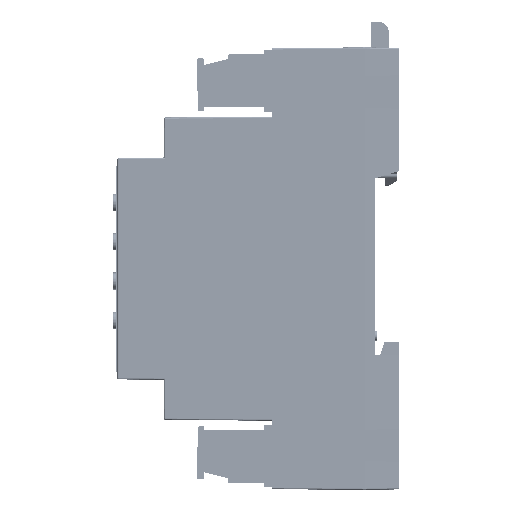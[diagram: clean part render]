
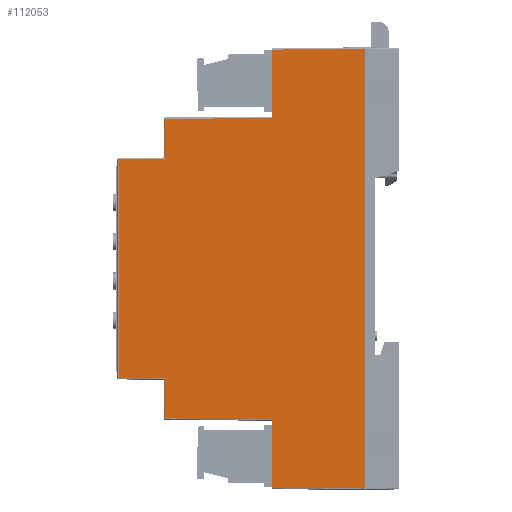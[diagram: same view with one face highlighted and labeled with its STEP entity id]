
A CAD part, left-side view. The second image highlights one B-rep face of the part: STEP entity #112053.
In plain terms, the highlighted planar face has unit normal (-1, 0.009, 0) as drawn and (0, 1, -0.009) by its records, which use the part's own axes.
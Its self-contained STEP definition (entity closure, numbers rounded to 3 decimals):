
#2780 = VERTEX_POINT ( 'NONE', #120462 ) ;
#7597 = LINE ( 'NONE', #83931, #209412 ) ;
#9528 = DIRECTION ( 'NONE',  ( 0.009, 0.009, 1. ) ) ;
#16227 = CARTESIAN_POINT ( 'NONE',  ( -34302.297, -26211.611, 40.463 ) ) ;
#16402 = EDGE_LOOP ( 'NONE', ( #73931, #241903, #84846, #59870, #59095, #91531, #212736, #211911, #137973, #179905, #191687, #34662, #122305, #90588, #145506, #198748 ) ) ;
#22446 = LINE ( 'NONE', #175070, #74074 ) ;
#25575 = VECTOR ( 'NONE', #86435, 1000. ) ;
#26449 = VERTEX_POINT ( 'NONE', #246712 ) ;
#27476 = CARTESIAN_POINT ( 'NONE',  ( -34316.397, -26211.446, 59.463 ) ) ;
#28698 = DIRECTION ( 'NONE',  ( 0.009, -0.009, -1. ) ) ;
#29731 = VERTEX_POINT ( 'NONE', #51866 ) ;
#34662 = ORIENTED_EDGE ( 'NONE', *, *, #36326, .F. ) ;
#34731 = CARTESIAN_POINT ( 'NONE',  ( -34310.447, -26211.446, 59.463 ) ) ;
#34877 = VECTOR ( 'NONE', #152748, 1000. ) ;
#36326 = EDGE_CURVE ( 'NONE', #46431, #159423, #60608, .T. ) ;
#36467 = CARTESIAN_POINT ( 'NONE',  ( -34226.797, -26211.446, 59.463 ) ) ;
#36671 = DIRECTION ( 'NONE',  ( 1., 0., 0. ) ) ;
#41955 = LINE ( 'NONE', #101943, #121103 ) ;
#42412 = LINE ( 'NONE', #119887, #243596 ) ;
#42459 = DIRECTION ( 'NONE',  ( -1., 0., 0. ) ) ;
#46318 = LINE ( 'NONE', #27476, #173265 ) ;
#46431 = VERTEX_POINT ( 'NONE', #184968 ) ;
#48791 = CARTESIAN_POINT ( 'NONE',  ( -34376.497, -26211.884, 9.26 ) ) ;
#51866 = CARTESIAN_POINT ( 'NONE',  ( -34249.244, -26211.801, 18.76 ) ) ;
#52521 = CARTESIAN_POINT ( 'NONE',  ( -34376.497, -26211.446, 59.463 ) ) ;
#55650 = VERTEX_POINT ( 'NONE', #222380 ) ;
#58973 = EDGE_CURVE ( 'NONE', #157665, #115098, #207816, .T. ) ;
#59095 = ORIENTED_EDGE ( 'NONE', *, *, #230493, .F. ) ;
#59870 = ORIENTED_EDGE ( 'NONE', *, *, #140385, .F. ) ;
#60143 = CARTESIAN_POINT ( 'NONE',  ( -34316.697, -26211.446, 59.463 ) ) ;
#60608 = LINE ( 'NONE', #80618, #84978 ) ;
#60645 = VERTEX_POINT ( 'NONE', #170680 ) ;
#64821 = CARTESIAN_POINT ( 'NONE',  ( -34241.086, -26211.801, 18.76 ) ) ;
#71773 = VECTOR ( 'NONE', #9528, 1000. ) ;
#73931 = ORIENTED_EDGE ( 'NONE', *, *, #170549, .F. ) ;
#74074 = VECTOR ( 'NONE', #42459, 1000. ) ;
#76296 = DIRECTION ( 'NONE',  ( -1., 0., 0. ) ) ;
#78569 = EDGE_CURVE ( 'NONE', #159423, #2780, #213814, .T. ) ;
#80618 = CARTESIAN_POINT ( 'NONE',  ( -34376.497, -26211.446, 59.463 ) ) ;
#81180 = DIRECTION ( 'NONE',  ( 1., 0., 0. ) ) ;
#82299 = EDGE_CURVE ( 'NONE', #178921, #85423, #208091, .T. ) ;
#83931 = CARTESIAN_POINT ( 'NONE',  ( -34376.497, -26211.801, 18.76 ) ) ;
#84846 = ORIENTED_EDGE ( 'NONE', *, *, #85503, .F. ) ;
#84978 = VECTOR ( 'NONE', #136878, 1000. ) ;
#85423 = VERTEX_POINT ( 'NONE', #16227 ) ;
#85503 = EDGE_CURVE ( 'NONE', #29731, #158123, #42412, .T. ) ;
#86435 = DIRECTION ( 'NONE',  ( 0.009, -0.009, -1. ) ) ;
#87569 = LINE ( 'NONE', #48791, #225251 ) ;
#90588 = ORIENTED_EDGE ( 'NONE', *, *, #209540, .F. ) ;
#91531 = ORIENTED_EDGE ( 'NONE', *, *, #142525, .F. ) ;
#93987 = CARTESIAN_POINT ( 'NONE',  ( -34249.327, -26211.884, 9.26 ) ) ;
#97872 = CARTESIAN_POINT ( 'NONE',  ( -34226.963, -26211.611, 40.463 ) ) ;
#100892 = LINE ( 'NONE', #178473, #71773 ) ;
#101442 = CARTESIAN_POINT ( 'NONE',  ( -34376.497, -26211.611, 40.463 ) ) ;
#101943 = CARTESIAN_POINT ( 'NONE',  ( -34302.297, -26211.611, 40.463 ) ) ;
#103805 = DIRECTION ( 'NONE',  ( 1., 0., 0. ) ) ;
#104042 = CARTESIAN_POINT ( 'NONE',  ( -34316.231, -26211.611, 40.463 ) ) ;
#106454 = VERTEX_POINT ( 'NONE', #97872 ) ;
#112053 = ADVANCED_FACE ( 'NONE', ( #223868 ), #201441, .F. ) ;
#114645 = LINE ( 'NONE', #208473, #197389 ) ;
#115098 = VERTEX_POINT ( 'NONE', #189994 ) ;
#119887 = CARTESIAN_POINT ( 'NONE',  ( -34376.497, -26211.801, 18.76 ) ) ;
#120462 = CARTESIAN_POINT ( 'NONE',  ( -34316.397, -26211.446, 59.463 ) ) ;
#121103 = VECTOR ( 'NONE', #230880, 1000. ) ;
#122305 = ORIENTED_EDGE ( 'NONE', *, *, #190568, .F. ) ;
#134775 = EDGE_CURVE ( 'NONE', #198320, #60645, #7597, .T. ) ;
#136878 = DIRECTION ( 'NONE',  ( -1., 0., 0. ) ) ;
#137973 = ORIENTED_EDGE ( 'NONE', *, *, #82299, .F. ) ;
#140200 = DIRECTION ( 'NONE',  ( 1., 0., 0. ) ) ;
#140385 = EDGE_CURVE ( 'NONE', #161599, #29731, #197723, .T. ) ;
#141870 = VECTOR ( 'NONE', #177793, 1000. ) ;
#142525 = EDGE_CURVE ( 'NONE', #60645, #55650, #143933, .T. ) ;
#143349 = CARTESIAN_POINT ( 'NONE',  ( -34302.108, -26211.801, 18.76 ) ) ;
#143933 = LINE ( 'NONE', #217772, #25575 ) ;
#145506 = ORIENTED_EDGE ( 'NONE', *, *, #58973, .F. ) ;
#146384 = DIRECTION ( 'NONE',  ( 0., -1., 0.009 ) ) ;
#152748 = DIRECTION ( 'NONE',  ( -1., 0., 0. ) ) ;
#157665 = VERTEX_POINT ( 'NONE', #36467 ) ;
#158123 = VERTEX_POINT ( 'NONE', #64821 ) ;
#159423 = VERTEX_POINT ( 'NONE', #34731 ) ;
#161331 = DIRECTION ( 'NONE',  ( 0.009, 0.009, 1. ) ) ;
#161599 = VERTEX_POINT ( 'NONE', #93987 ) ;
#165280 = VECTOR ( 'NONE', #76296, 1000. ) ;
#170549 = EDGE_CURVE ( 'NONE', #26449, #106454, #194146, .T. ) ;
#170680 = CARTESIAN_POINT ( 'NONE',  ( -34293.95, -26211.801, 18.76 ) ) ;
#173265 = VECTOR ( 'NONE', #28698, 1000. ) ;
#175070 = CARTESIAN_POINT ( 'NONE',  ( -34376.497, -26211.446, 59.463 ) ) ;
#177793 = DIRECTION ( 'NONE',  ( 1., 0., 0. ) ) ;
#178473 = CARTESIAN_POINT ( 'NONE',  ( -34226.963, -26211.611, 40.463 ) ) ;
#178921 = VERTEX_POINT ( 'NONE', #104042 ) ;
#179530 = CARTESIAN_POINT ( 'NONE',  ( -34316.697, -26211.446, 59.463 ) ) ;
#179905 = ORIENTED_EDGE ( 'NONE', *, *, #230460, .F. ) ;
#180551 = DIRECTION ( 'NONE',  ( 0.009, 0.009, 1. ) ) ;
#184968 = CARTESIAN_POINT ( 'NONE',  ( -34304.747, -26211.446, 59.463 ) ) ;
#189994 = CARTESIAN_POINT ( 'NONE',  ( -34232.747, -26211.446, 59.463 ) ) ;
#190568 = EDGE_CURVE ( 'NONE', #237619, #46431, #22446, .T. ) ;
#191420 = CARTESIAN_POINT ( 'NONE',  ( -34238.447, -26211.446, 59.463 ) ) ;
#191505 = VECTOR ( 'NONE', #180551, 1000. ) ;
#191687 = ORIENTED_EDGE ( 'NONE', *, *, #78569, .F. ) ;
#191792 = CARTESIAN_POINT ( 'NONE',  ( -34376.497, -26211.611, 40.463 ) ) ;
#194146 = LINE ( 'NONE', #101442, #141870 ) ;
#197389 = VECTOR ( 'NONE', #244796, 1000. ) ;
#197723 = LINE ( 'NONE', #236437, #215063 ) ;
#198320 = VERTEX_POINT ( 'NONE', #143349 ) ;
#198748 = ORIENTED_EDGE ( 'NONE', *, *, #217500, .F. ) ;
#199361 = LINE ( 'NONE', #218114, #191505 ) ;
#201441 = PLANE ( 'NONE',  #244763 ) ;
#205115 = DIRECTION ( 'NONE',  ( -1., 0., 0. ) ) ;
#207511 = EDGE_CURVE ( 'NONE', #85423, #198320, #41955, .T. ) ;
#207816 = LINE ( 'NONE', #60143, #34877 ) ;
#208091 = LINE ( 'NONE', #191792, #230642 ) ;
#208473 = CARTESIAN_POINT ( 'NONE',  ( -34376.497, -26211.446, 59.463 ) ) ;
#209412 = VECTOR ( 'NONE', #140200, 1000. ) ;
#209540 = EDGE_CURVE ( 'NONE', #115098, #237619, #114645, .T. ) ;
#211911 = ORIENTED_EDGE ( 'NONE', *, *, #207511, .F. ) ;
#212736 = ORIENTED_EDGE ( 'NONE', *, *, #134775, .F. ) ;
#213814 = LINE ( 'NONE', #179530, #165280 ) ;
#215063 = VECTOR ( 'NONE', #161331, 1000. ) ;
#217500 = EDGE_CURVE ( 'NONE', #106454, #157665, #100892, .T. ) ;
#217772 = CARTESIAN_POINT ( 'NONE',  ( -34293.95, -26211.801, 18.76 ) ) ;
#218114 = CARTESIAN_POINT ( 'NONE',  ( -34241.086, -26211.801, 18.76 ) ) ;
#222380 = CARTESIAN_POINT ( 'NONE',  ( -34293.867, -26211.884, 9.26 ) ) ;
#223868 = FACE_OUTER_BOUND ( 'NONE', #16402, .T. ) ;
#225251 = VECTOR ( 'NONE', #103805, 1000. ) ;
#230460 = EDGE_CURVE ( 'NONE', #2780, #178921, #46318, .T. ) ;
#230493 = EDGE_CURVE ( 'NONE', #55650, #161599, #87569, .T. ) ;
#230642 = VECTOR ( 'NONE', #36671, 1000. ) ;
#230880 = DIRECTION ( 'NONE',  ( 0.009, -0.009, -1. ) ) ;
#235900 = EDGE_CURVE ( 'NONE', #158123, #26449, #199361, .T. ) ;
#236437 = CARTESIAN_POINT ( 'NONE',  ( -34249.327, -26211.884, 9.26 ) ) ;
#237619 = VERTEX_POINT ( 'NONE', #191420 ) ;
#241903 = ORIENTED_EDGE ( 'NONE', *, *, #235900, .F. ) ;
#243596 = VECTOR ( 'NONE', #81180, 1000. ) ;
#244763 = AXIS2_PLACEMENT_3D ( 'NONE', #52521, #146384, #205115 ) ;
#244796 = DIRECTION ( 'NONE',  ( -1., 0., 0. ) ) ;
#246712 = CARTESIAN_POINT ( 'NONE',  ( -34240.897, -26211.611, 40.463 ) ) ;
